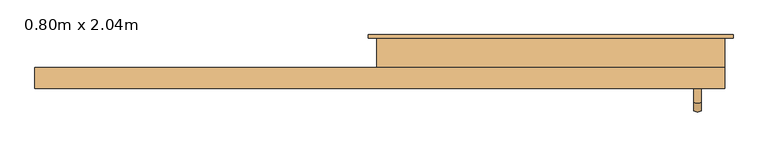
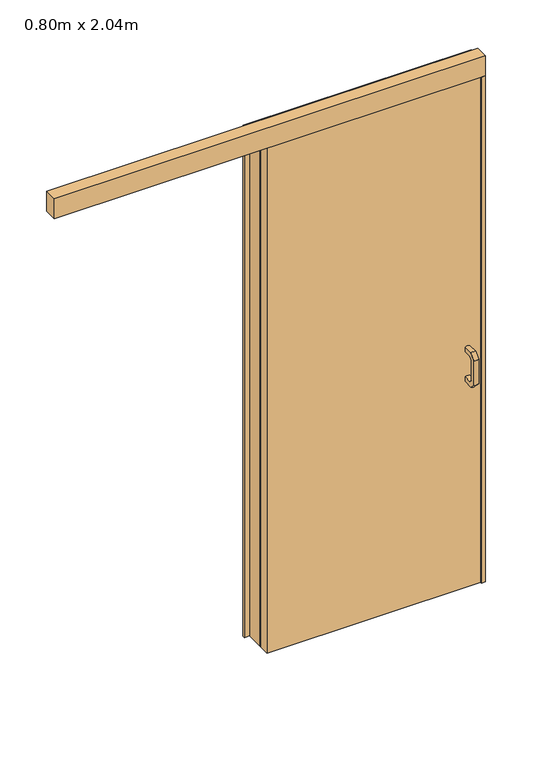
"""IFC4 building model written with IfcOpenShell, lengths in millimetres: door geometry, Coulissante - Apparente : 0.80m x 2.04m."""

from ifc_helpers import new_model, si_unit, frame, origin, origin_with_axes, place, context, project, spatial, polyline, circle_curve, ellipse_curve, outline, extrude, faceted_brep, source, transform, mapped, element, save
from ifc_brep_helpers import plane_surface, cylinder_surface, advanced_brep


def door_0_80m_x_2_04m_e4bc2128(model_context):
    return source(origin(), model_context, "Body", "SolidModel", [
        advanced_brep(
        [(202.6965769, -40.0, 951.0), (220.6965769, -40.0, 951.0), (220.6965769, -40.0, 969.0), (202.6965769, -40.0, 969.0), (202.6965769, -1.2720779, 969.0), (202.6965769, 19.0, 948.7279221), (202.6965769, 19.0, 851.2720779), (202.6965769, -1.2720779, 831.0), (202.6965769, -40.0, 831.0), (202.6965769, -40.0, 849.0), (202.6965769, -8.7279221, 849.0), (202.6965769, 1.0, 858.7279221), (202.6965769, 1.0, 941.2720779), (202.6965769, -8.7279221, 951.0), (220.6965769, -1.2720779, 969.0), (220.6965769, -8.7279221, 951.0), (220.6965769, 1.0, 941.2720779), (220.6965769, 1.0, 858.7279221), (220.6965769, -8.7279221, 849.0), (220.6965769, -40.0, 849.0), (220.6965769, -40.0, 831.0), (220.6965769, -1.2720779, 831.0), (220.6965769, 19.0, 851.2720779), (220.6965769, 19.0, 948.7279221)],
        [
            (0, 1, circle_curve(frame((211.6965769, -40.0, 967.8242505), z_axis=(0.0, -1.0, 0.0), x_axis=(0.0, 0.0, -1.0)), 19.0802359)),
            (1, 2),
            (2, 3, circle_curve(frame((211.6965769, -40.0, 952.1757495), z_axis=(0.0, -1.0, 0.0), x_axis=(0.0, 0.0, -1.0)), 19.0802359)),
            (3, 0),
            (3, 4),
            (4, 5),
            (5, 6),
            (6, 7),
            (7, 8),
            (8, 9),
            (9, 10),
            (10, 11),
            (11, 12),
            (12, 13),
            (13, 0),
            (2, 14),
            (14, 4, ellipse_curve(frame((211.6965769, -8.2409107, 952.1757495), z_axis=(0.0, -0.9238795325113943, 0.3826834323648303), x_axis=(0.0, -0.38268343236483, -0.9238795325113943)), 20.6522986, 19.0802359)),
            (1, 15),
            (15, 16),
            (16, 17),
            (17, 18),
            (18, 19),
            (19, 20),
            (20, 21),
            (21, 22),
            (22, 23),
            (23, 14),
            (13, 15, ellipse_curve(frame((211.6965769, -1.7590893, 967.8242505), z_axis=(0.0, -0.9238795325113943, 0.3826834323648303), x_axis=(0.0, -0.38268343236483, -0.9238795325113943)), 20.6522986, 19.0802359)),
            (23, 5, ellipse_curve(frame((211.6965769, 2.1757495, 941.7590893), z_axis=(0.0, -0.38268343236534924, 0.9238795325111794), x_axis=(0.0, -0.9238795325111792, -0.3826834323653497)), 20.6522986, 19.0802359)),
            (12, 16, ellipse_curve(frame((211.6965769, 17.8242505, 948.2409107), z_axis=(0.0, -0.38268343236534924, 0.9238795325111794), x_axis=(0.0, -0.9238795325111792, -0.3826834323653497)), 20.6522986, 19.0802359)),
            (22, 6, ellipse_curve(frame((211.6965769, 2.1757495, 858.2409107), z_axis=(0.0, 0.38268343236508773, 0.9238795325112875), x_axis=(0.0, -0.9238795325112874, 0.38268343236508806)), 20.6522986, 19.0802359)),
            (11, 17, ellipse_curve(frame((211.6965769, 17.8242505, 851.7590893), z_axis=(0.0, 0.38268343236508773, 0.9238795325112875), x_axis=(0.0, -0.9238795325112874, 0.38268343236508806)), 20.6522986, 19.0802359)),
            (21, 7, ellipse_curve(frame((211.6965769, -8.2409107, 847.8242505), z_axis=(0.0, 0.9238795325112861, 0.3826834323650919), x_axis=(0.0, -0.3826834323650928, 0.9238795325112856)), 20.6522986, 19.0802359)),
            (10, 18, ellipse_curve(frame((211.6965769, -1.7590893, 832.1757495), z_axis=(0.0, 0.9238795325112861, 0.3826834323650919), x_axis=(0.0, -0.3826834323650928, 0.9238795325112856)), 20.6522986, 19.0802359)),
            (8, 20, circle_curve(frame((211.6965769, -40.0, 847.8242505), z_axis=(0.0, -1.0, 0.0), x_axis=(0.0, 0.0, 1.0)), 19.0802359)),
            (19, 9, circle_curve(frame((211.6965769, -40.0, 832.1757495), z_axis=(0.0, -1.0, 0.0), x_axis=(0.0, 0.0, 1.0)), 19.0802359)),
        ],
        [
            plane_surface(frame((224.424499, -40.0, 960.0), z_axis=(0.0, -1.0, 0.0), x_axis=(0.0, 0.0, 1.0))),
            plane_surface(frame((202.6965769, -40.0, 951.0), z_axis=(-1.0, 0.0, 0.0), x_axis=(0.0, 1.0, 0.0))),
            cylinder_surface(frame((211.6965769, -40.0, 952.1757495), z_axis=(0.0, -1.0, 0.0), x_axis=(0.0, 0.0, -1.0)), 19.0802359),
            plane_surface(frame((220.6965769, -40.0, 969.0), z_axis=(1.0, 0.0, 0.0), x_axis=(0.0, 1.0, 0.0))),
            cylinder_surface(frame((211.6965769, -40.0, 967.8242505), z_axis=(0.0, -1.0, 0.0), x_axis=(0.0, 0.0, -1.0)), 19.0802359),
            cylinder_surface(frame((211.6965769, -10.5325806, 954.4674194), z_axis=(0.0, -0.7071067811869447, 0.7071067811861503), x_axis=(0.0, -0.7071067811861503, -0.7071067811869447)), 19.0802359),
            cylinder_surface(frame((211.6965769, 0.5325806, 965.5325806), z_axis=(0.0, -0.7071067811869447, 0.7071067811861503), x_axis=(0.0, -0.7071067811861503, -0.7071067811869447)), 19.0802359),
            cylinder_surface(frame((211.6965769, 2.1757495, 945.0), z_axis=(0.0, 0.0, 1.0), x_axis=(0.0, -1.0, 0.0)), 19.0802359),
            cylinder_surface(frame((211.6965769, 17.8242505, 945.0), z_axis=(0.0, 0.0, 1.0), x_axis=(0.0, -1.0, 0.0)), 19.0802359),
            cylinder_surface(frame((211.6965769, 4.4674194, 860.5325806), z_axis=(0.0, 0.7071067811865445, 0.7071067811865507), x_axis=(0.0, -0.7071067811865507, 0.7071067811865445)), 19.0802359),
            cylinder_surface(frame((211.6965769, 15.5325806, 849.4674194), z_axis=(0.0, 0.7071067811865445, 0.7071067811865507), x_axis=(0.0, -0.7071067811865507, 0.7071067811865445)), 19.0802359),
            plane_surface(frame((224.424499, -40.0, 840.0), z_axis=(0.0, -1.0, 0.0), x_axis=(0.0, 0.0, -1.0))),
            cylinder_surface(frame((211.6965769, -5.0, 847.8242505), z_axis=(0.0, 1.0, 0.0), x_axis=(0.0, 0.0, 1.0)), 19.0802359),
            cylinder_surface(frame((211.6965769, -5.0, 832.1757495), z_axis=(0.0, 1.0, 0.0), x_axis=(0.0, 0.0, 1.0)), 19.0802359),
        ],
        [
            (0, [[1, 2, 3, 4]]),
            (1, [[5, 6, 7, 8, 9, 10, 11, 12, 13, 14, 15, -4]]),
            (2, [[16, 17, -5, -3]]),
            (3, [[18, 19, 20, 21, 22, 23, 24, 25, 26, 27, -16, -2]]),
            (4, [[-15, 28, -18, -1]]),
            (5, [[-27, 29, -6, -17]]),
            (6, [[-14, 30, -19, -28]]),
            (7, [[-26, 31, -7, -29]]),
            (8, [[-13, 32, -20, -30]]),
            (9, [[-25, 33, -8, -31]]),
            (10, [[-12, 34, -21, -32]]),
            (11, [[-10, 35, -23, 36]]),
            (12, [[-24, -35, -9, -33]]),
            (13, [[-11, -36, -22, -34]]),
        ],
    ),
        advanced_brep(
        [(220.6965769, -80.0, 969.0), (220.6965769, -80.0, 951.0), (202.6965769, -80.0, 951.0), (202.6965769, -80.0, 969.0), (202.6965769, -118.7279221, 969.0), (220.6965769, -118.7279221, 969.0), (202.6965769, -111.2720779, 951.0), (202.6965769, -121.0, 941.2720779), (202.6965769, -121.0, 858.7279221), (202.6965769, -111.2720779, 849.0), (202.6965769, -80.0, 849.0), (202.6965769, -80.0, 831.0), (202.6965769, -118.7279221, 831.0), (202.6965769, -139.0, 851.2720779), (202.6965769, -139.0, 948.7279221), (220.6965769, -111.2720779, 951.0), (220.6965769, -139.0, 948.7279221), (220.6965769, -139.0, 851.2720779), (220.6965769, -118.7279221, 831.0), (220.6965769, -80.0, 831.0), (220.6965769, -80.0, 849.0), (220.6965769, -111.2720779, 849.0), (220.6965769, -121.0, 858.7279221), (220.6965769, -121.0, 941.2720779)],
        [
            (0, 1),
            (1, 2, circle_curve(frame((211.6965769, -80.0, 967.8242505), z_axis=(0.0, 1.0, 0.0), x_axis=(0.0, 0.0, 1.0)), 19.0802359)),
            (2, 3),
            (3, 0, circle_curve(frame((211.6965769, -80.0, 952.1757495), z_axis=(0.0, 1.0, 0.0), x_axis=(0.0, 0.0, 1.0)), 19.0802359)),
            (3, 4),
            (4, 5, ellipse_curve(frame((211.6965769, -111.7590893, 952.1757495), z_axis=(0.0, 0.9238795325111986, 0.38268343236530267), x_axis=(0.0, 0.38268343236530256, -0.9238795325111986)), 20.6522986, 19.0802359)),
            (5, 0),
            (2, 6),
            (6, 7),
            (7, 8),
            (8, 9),
            (9, 10),
            (10, 11),
            (11, 12),
            (12, 13),
            (13, 14),
            (14, 4),
            (1, 15),
            (15, 6, ellipse_curve(frame((211.6965769, -118.2409107, 967.8242505), z_axis=(0.0, 0.9238795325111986, 0.38268343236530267), x_axis=(0.0, 0.38268343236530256, -0.9238795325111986)), 20.6522986, 19.0802359)),
            (5, 16),
            (16, 17),
            (17, 18),
            (18, 19),
            (19, 20),
            (20, 21),
            (21, 22),
            (22, 23),
            (23, 15),
            (14, 16, ellipse_curve(frame((211.6965769, -122.1757495, 941.7590893), z_axis=(0.0, 0.38268343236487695, 0.923879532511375), x_axis=(0.0, 0.9238795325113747, -0.3826834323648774)), 20.6522986, 19.0802359)),
            (23, 7, ellipse_curve(frame((211.6965769, -137.8242505, 948.2409107), z_axis=(0.0, 0.38268343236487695, 0.923879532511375), x_axis=(0.0, 0.9238795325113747, -0.3826834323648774)), 20.6522986, 19.0802359)),
            (13, 17, ellipse_curve(frame((211.6965769, -122.1757495, 858.2409107), z_axis=(0.0, -0.38268343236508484, 0.9238795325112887), x_axis=(0.0, 0.9238795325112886, 0.3826834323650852)), 20.6522986, 19.0802359)),
            (22, 8, ellipse_curve(frame((211.6965769, -137.8242505, 851.7590893), z_axis=(0.0, -0.38268343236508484, 0.9238795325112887), x_axis=(0.0, 0.9238795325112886, 0.3826834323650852)), 20.6522986, 19.0802359)),
            (12, 18, ellipse_curve(frame((211.6965769, -111.7590893, 847.8242505), z_axis=(0.0, -0.9238795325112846, 0.38268343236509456), x_axis=(0.0, 0.38268343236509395, 0.9238795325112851)), 20.6522986, 19.0802359)),
            (21, 9, ellipse_curve(frame((211.6965769, -118.2409107, 832.1757495), z_axis=(0.0, -0.9238795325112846, 0.38268343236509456), x_axis=(0.0, 0.38268343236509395, 0.9238795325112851)), 20.6522986, 19.0802359)),
            (19, 11, circle_curve(frame((211.6965769, -80.0, 847.8242505), z_axis=(0.0, 1.0, 0.0), x_axis=(0.0, 0.0, -1.0)), 19.0802359)),
            (10, 20, circle_curve(frame((211.6965769, -80.0, 832.1757495), z_axis=(0.0, 1.0, 0.0), x_axis=(0.0, 0.0, -1.0)), 19.0802359)),
        ],
        [
            plane_surface(frame((224.424499, -80.0, 960.0), z_axis=(0.0, 1.0, 0.0), x_axis=(0.0, 0.0, -1.0))),
            cylinder_surface(frame((211.6965769, -80.0, 952.1757495), z_axis=(0.0, 1.0, 0.0), x_axis=(0.0, 0.0, 1.0)), 19.0802359),
            plane_surface(frame((202.6965769, -80.0, 969.0), z_axis=(-1.0, 0.0, 0.0), x_axis=(0.0, -1.0, 0.0))),
            cylinder_surface(frame((211.6965769, -80.0, 967.8242505), z_axis=(0.0, 1.0, 0.0), x_axis=(0.0, 0.0, 1.0)), 19.0802359),
            plane_surface(frame((220.6965769, -80.0, 951.0), z_axis=(1.0, 0.0, 0.0), x_axis=(0.0, -1.0, 0.0))),
            cylinder_surface(frame((211.6965769, -109.4674194, 954.4674194), z_axis=(0.0, 0.7071067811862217, 0.7071067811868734), x_axis=(0.0, -0.7071067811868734, 0.7071067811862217)), 19.0802359),
            cylinder_surface(frame((211.6965769, -120.5325806, 965.5325806), z_axis=(0.0, 0.7071067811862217, 0.7071067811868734), x_axis=(0.0, -0.7071067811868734, 0.7071067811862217)), 19.0802359),
            cylinder_surface(frame((211.6965769, -122.1757495, 945.0), z_axis=(0.0, 0.0, 1.0), x_axis=(0.0, -1.0, 0.0)), 19.0802359),
            cylinder_surface(frame((211.6965769, -137.8242505, 945.0), z_axis=(0.0, 0.0, 1.0), x_axis=(0.0, -1.0, 0.0)), 19.0802359),
            cylinder_surface(frame((211.6965769, -124.4674194, 860.5325806), z_axis=(0.0, -0.70710678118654, 0.707106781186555), x_axis=(0.0, -0.707106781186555, -0.70710678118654)), 19.0802359),
            cylinder_surface(frame((211.6965769, -135.5325806, 849.4674194), z_axis=(0.0, -0.70710678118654, 0.707106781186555), x_axis=(0.0, -0.707106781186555, -0.70710678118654)), 19.0802359),
            plane_surface(frame((224.424499, -80.0, 840.0), z_axis=(0.0, 1.0, 0.0), x_axis=(0.0, 0.0, 1.0))),
            cylinder_surface(frame((211.6965769, -115.0, 847.8242505), z_axis=(0.0, -1.0, 0.0), x_axis=(0.0, 0.0, -1.0)), 19.0802359),
            cylinder_surface(frame((211.6965769, -115.0, 832.1757495), z_axis=(0.0, -1.0, 0.0), x_axis=(0.0, 0.0, -1.0)), 19.0802359),
        ],
        [
            (0, [[1, 2, 3, 4]]),
            (1, [[5, 6, 7, -4]]),
            (2, [[8, 9, 10, 11, 12, 13, 14, 15, 16, 17, -5, -3]]),
            (3, [[18, 19, -8, -2]]),
            (4, [[-7, 20, 21, 22, 23, 24, 25, 26, 27, 28, -18, -1]]),
            (5, [[-17, 29, -20, -6]]),
            (6, [[-28, 30, -9, -19]]),
            (7, [[-16, 31, -21, -29]]),
            (8, [[-27, 32, -10, -30]]),
            (9, [[-15, 33, -22, -31]]),
            (10, [[-26, 34, -11, -32]]),
            (11, [[35, -13, 36, -24]]),
            (12, [[-14, -35, -23, -33]]),
            (13, [[-25, -36, -12, -34]]),
        ],
    ),
        extrude(outline(polyline([(276.6965769, -85.0), (261.6965769, -85.0), (261.6965769, -35.0), (276.6965769, -35.0), (276.6965769, -85.0)])), origin_with_axes(), (0.0, 0.0, 1.0), 2040.0),
        faceted_brep([(-553.3034231, 35.0, 0.0), (-573.3034231, 35.0, 0.0), (-573.3034231, 43.0, 0.0), (-538.3034231, 43.0, 0.0), (-538.3034231, -35.0, 0.0), (-553.3034231, -35.0, 0.0), (-553.3034231, 35.0, 2040.0), (276.6965769, 35.0, 2040.0), (276.6965769, 35.0, 0.0), (296.6965769, 35.0, 0.0), (296.6965769, 35.0, 2060.0), (-573.3034231, 35.0, 2060.0), (-573.3034231, 43.0, 2060.0), (296.6965769, 43.0, 2060.0), (296.6965769, 43.0, 0.0), (261.6965769, 43.0, 0.0), (261.6965769, 43.0, 2025.0), (-538.3034231, 43.0, 2025.0), (-538.3034231, -35.0, 2025.0), (261.6965769, -35.0, 2025.0), (261.6965769, -35.0, 0.0), (276.6965769, -35.0, 0.0), (276.6965769, -35.0, 2040.0), (-553.3034231, -35.0, 2040.0)], [[[0, 1, 2, 3, 4, 5]], [[1, 0, 6, 7, 8, 9, 10, 11]], [[2, 1, 11, 12]], [[3, 2, 12, 13, 14, 15, 16, 17]], [[4, 3, 17, 18]], [[5, 4, 18, 19, 20, 21, 22, 23]], [[0, 5, 23, 6]], [[12, 11, 10, 13]], [[18, 17, 16, 19]], [[6, 23, 22, 7]], [[8, 21, 20, 15, 14, 9]], [[13, 10, 9, 14]], [[19, 16, 15, 20]], [[7, 22, 21, 8]]]),
        extrude(outline(polyline([(261.6965769, -80.0), (-553.3034231, -80.0), (-553.3034231, -40.0), (261.6965769, -40.0), (261.6965769, -80.0)])), origin_with_axes(), (0.0, 0.0, 1.0), 2040.0),
        extrude(outline(polyline([(276.6965769, -85.0), (-1368.3034231, -85.0), (-1368.3034231, -35.0), (276.6965769, -35.0), (276.6965769, -85.0)])), frame((0.0, 0.0, 2040.0), z_axis=(0.0, 0.0, 1.0), x_axis=(1.0, 0.0, 0.0)), (0.0, 0.0, 1.0), 80.0),
    ])


if __name__ == "__main__":
    model = new_model("IFC4")
    model_context = context("Model", 3, world=origin())
    ifc_project = project(units=[si_unit("LENGTHUNIT", "METRE", prefix="MILLI")], contexts=[model_context])
    site = spatial("IfcSite", under=ifc_project)
    building = spatial("IfcBuilding", under=site)
    placement = place(None, origin())
    door_0_80m_x_2_04m_shape = door_0_80m_x_2_04m_e4bc2128(model_context)
    element("IfcDoor", 1, ObjectType="Coulissante - Apparente : 0.80m x 2.04m", at=placement, inside=building, context=model_context, shape_type="MappedRepresentation", body=[
        mapped(door_0_80m_x_2_04m_shape, transform((0.0, 0.0, 0.0), x_axis=(1.0, 0.0, 0.0), y_axis=(0.0, 1.0, 0.0), z_axis=(0.0, 0.0, 1.0))),
    ])
    save(model, "model.ifc")
